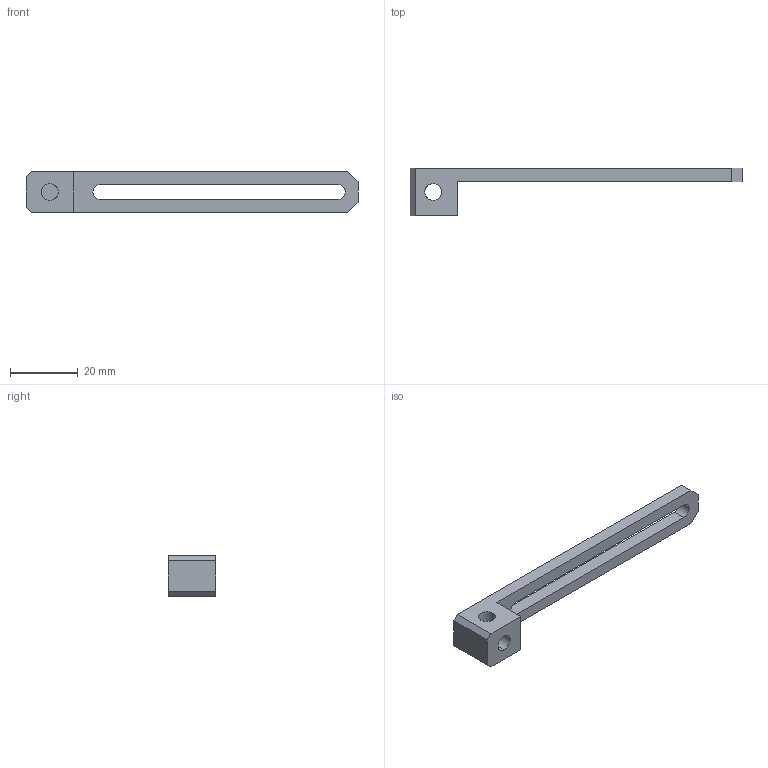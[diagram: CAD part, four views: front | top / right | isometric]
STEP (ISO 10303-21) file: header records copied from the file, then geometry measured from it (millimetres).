
FILE_DESCRIPTION (( 'STEP AP214' ), '1' );
FILE_NAME ('SCF2-40M6.STEP', '2019-11-06T07:47:56', ( '微软用户' ), ( '微软中国' ), 'SwSTEP 2.0', 'SolidWorks 2016', '' );
FILE_SCHEMA (( 'AUTOMOTIVE_DESIGN' ));
Length unit declared in the file: millimetre
Products named in the file (1): SCF2-40M6
Bounding box: 98 x 14 x 12 mm (x, y, z)
Volume: 4643.7 mm3; surface area: 3852.2 mm2
Topology: 1 solids, 1 shells, 22 faces, 63 edges, 42 vertices
Faces by surface type: plane 15, cylinder 7
Entity records: 887 total; most frequent: CARTESIAN_POINT 262, ORIENTED_EDGE 126, DIRECTION 115, EDGE_CURVE 63, LINE 45, VECTOR 45, VERTEX_POINT 42, AXIS2_PLACEMENT_3D 35
